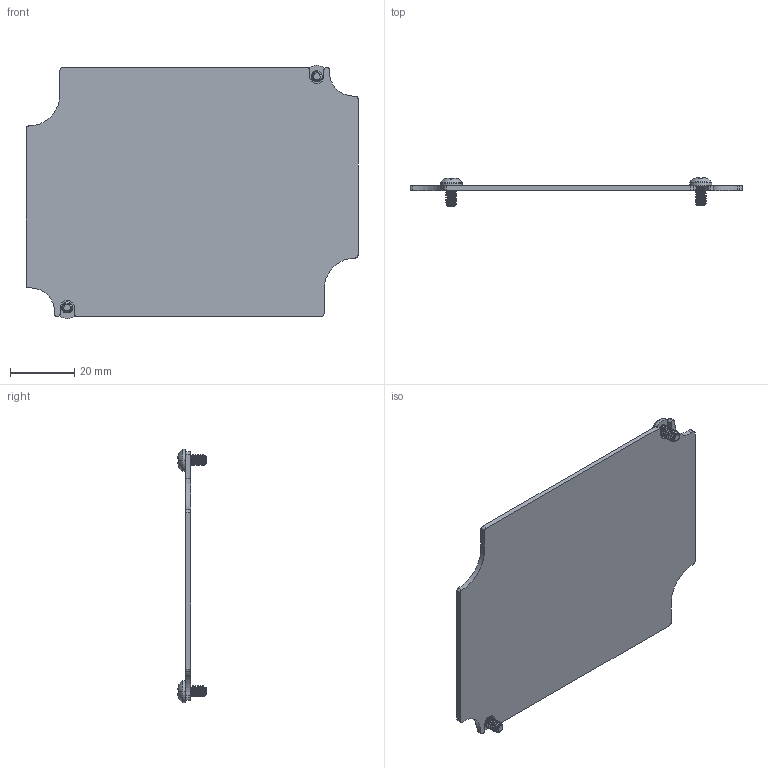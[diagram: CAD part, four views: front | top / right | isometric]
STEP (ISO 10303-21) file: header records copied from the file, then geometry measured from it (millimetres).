
FILE_DESCRIPTION (( 'STEP AP214' ), '1' );
FILE_NAME ('AN-04K.step', '2026-09-17T19:32:17', ( '' ), ( '' ), 'SwSTEP 2.0', 'SolidWorks 2026', '' );
FILE_SCHEMA (( 'AUTOMOTIVE_DESIGN' ));
Length unit declared in the file: inch
Products named in the file (3): SCREWS-050; AN-04-P_DEFAULT; AN-04K
Assembly tree (3 placements, depth 2):
  AN-04K
    AN-04-P_DEFAULT
    SCREWS-050  x2
Bounding box: 103.39 x 8.8 x 78.88 mm (x, y, z)
Volume: 11633 mm3; surface area: 15934.5 mm2
Topology: 3 solids, 3 shells, 707 faces, 1719 edges, 1016 vertices
Faces by surface type: bspline 368, cylinder 175, plane 68, sphere 48, cone 40, torus 8
Entity records: 17601 total; most frequent: CARTESIAN_POINT 10101, ORIENTED_EDGE 1820, DIRECTION 1082, EDGE_CURVE 910, VERTEX_POINT 543, B_SPLINE_CURVE_WITH_KNOTS 415, AXIS2_PLACEMENT_3D 393, EDGE_LOOP 373
